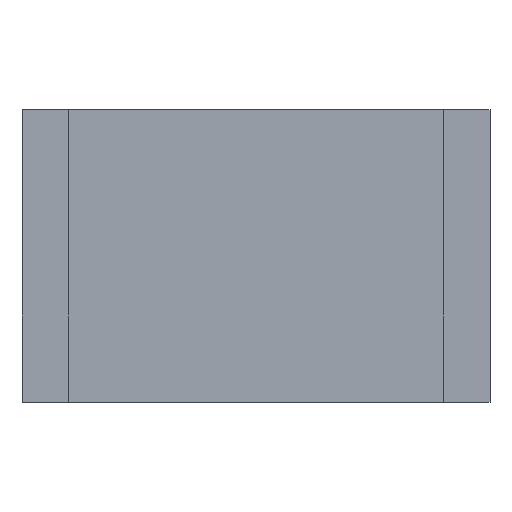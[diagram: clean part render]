
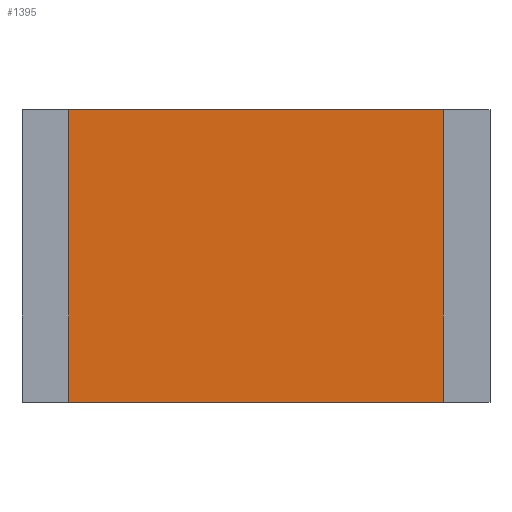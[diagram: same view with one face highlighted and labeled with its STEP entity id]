
A CAD part, top view. The second image highlights one B-rep face of the part: STEP entity #1395.
In plain terms, the highlighted planar face has unit normal (0, 0, 1).
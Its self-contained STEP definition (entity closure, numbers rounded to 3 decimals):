
#1081 = VERTEX_POINT('',#1082);
#1082 = CARTESIAN_POINT('',(0.,0.,0.05));
#1089 = PLANE('',#1090);
#1090 = AXIS2_PLACEMENT_3D('',#1091,#1092,#1093);
#1091 = CARTESIAN_POINT('',(0.,0.,0.));
#1092 = DIRECTION('',(1.,0.,0.));
#1093 = DIRECTION('',(0.,0.,1.));
#1101 = PLANE('',#1102);
#1102 = AXIS2_PLACEMENT_3D('',#1103,#1104,#1105);
#1103 = CARTESIAN_POINT('',(0.,0.,0.));
#1104 = DIRECTION('',(0.,1.,0.));
#1105 = DIRECTION('',(0.,0.,1.));
#1142 = VERTEX_POINT('',#1143);
#1143 = CARTESIAN_POINT('',(0.,1.25,0.05));
#1157 = PLANE('',#1158);
#1158 = AXIS2_PLACEMENT_3D('',#1159,#1160,#1161);
#1159 = CARTESIAN_POINT('',(0.,1.25,0.));
#1160 = DIRECTION('',(0.,1.,0.));
#1161 = DIRECTION('',(0.,0.,1.));
#1169 = EDGE_CURVE('',#1081,#1142,#1170,.T.);
#1170 = SURFACE_CURVE('',#1171,(#1175,#1182),.PCURVE_S1.);
#1171 = LINE('',#1172,#1173);
#1172 = CARTESIAN_POINT('',(0.,0.,0.05));
#1173 = VECTOR('',#1174,1.);
#1174 = DIRECTION('',(0.,1.,0.));
#1175 = PCURVE('',#1089,#1176);
#1176 = DEFINITIONAL_REPRESENTATION('',(#1177),#1181);
#1177 = LINE('',#1178,#1179);
#1178 = CARTESIAN_POINT('',(0.05,0.));
#1179 = VECTOR('',#1180,1.);
#1180 = DIRECTION('',(0.,-1.));
#1181 = ( GEOMETRIC_REPRESENTATION_CONTEXT(2) 
PARAMETRIC_REPRESENTATION_CONTEXT() REPRESENTATION_CONTEXT('2D SPACE',''
  ) );
#1182 = PCURVE('',#1183,#1188);
#1183 = PLANE('',#1184);
#1184 = AXIS2_PLACEMENT_3D('',#1185,#1186,#1187);
#1185 = CARTESIAN_POINT('',(0.,0.,0.05));
#1186 = DIRECTION('',(0.,0.,1.));
#1187 = DIRECTION('',(1.,0.,0.));
#1188 = DEFINITIONAL_REPRESENTATION('',(#1189),#1193);
#1189 = LINE('',#1190,#1191);
#1190 = CARTESIAN_POINT('',(0.,0.));
#1191 = VECTOR('',#1192,1.);
#1192 = DIRECTION('',(0.,1.));
#1193 = ( GEOMETRIC_REPRESENTATION_CONTEXT(2) 
PARAMETRIC_REPRESENTATION_CONTEXT() REPRESENTATION_CONTEXT('2D SPACE',''
  ) );
#1201 = VERTEX_POINT('',#1202);
#1202 = CARTESIAN_POINT('',(1.6,0.,0.05));
#1209 = PLANE('',#1210);
#1210 = AXIS2_PLACEMENT_3D('',#1211,#1212,#1213);
#1211 = CARTESIAN_POINT('',(1.6,0.,0.));
#1212 = DIRECTION('',(1.,0.,0.));
#1213 = DIRECTION('',(0.,0.,1.));
#1252 = VERTEX_POINT('',#1253);
#1253 = CARTESIAN_POINT('',(1.6,1.25,0.05));
#1274 = EDGE_CURVE('',#1201,#1252,#1275,.T.);
#1275 = SURFACE_CURVE('',#1276,(#1280,#1287),.PCURVE_S1.);
#1276 = LINE('',#1277,#1278);
#1277 = CARTESIAN_POINT('',(1.6,0.,0.05));
#1278 = VECTOR('',#1279,1.);
#1279 = DIRECTION('',(0.,1.,0.));
#1280 = PCURVE('',#1209,#1281);
#1281 = DEFINITIONAL_REPRESENTATION('',(#1282),#1286);
#1282 = LINE('',#1283,#1284);
#1283 = CARTESIAN_POINT('',(0.05,0.));
#1284 = VECTOR('',#1285,1.);
#1285 = DIRECTION('',(0.,-1.));
#1286 = ( GEOMETRIC_REPRESENTATION_CONTEXT(2) 
PARAMETRIC_REPRESENTATION_CONTEXT() REPRESENTATION_CONTEXT('2D SPACE',''
  ) );
#1287 = PCURVE('',#1183,#1288);
#1288 = DEFINITIONAL_REPRESENTATION('',(#1289),#1293);
#1289 = LINE('',#1290,#1291);
#1290 = CARTESIAN_POINT('',(1.6,0.));
#1291 = VECTOR('',#1292,1.);
#1292 = DIRECTION('',(0.,1.));
#1293 = ( GEOMETRIC_REPRESENTATION_CONTEXT(2) 
PARAMETRIC_REPRESENTATION_CONTEXT() REPRESENTATION_CONTEXT('2D SPACE',''
  ) );
#1320 = EDGE_CURVE('',#1081,#1201,#1321,.T.);
#1321 = SURFACE_CURVE('',#1322,(#1326,#1333),.PCURVE_S1.);
#1322 = LINE('',#1323,#1324);
#1323 = CARTESIAN_POINT('',(0.,0.,0.05));
#1324 = VECTOR('',#1325,1.);
#1325 = DIRECTION('',(1.,0.,0.));
#1326 = PCURVE('',#1101,#1327);
#1327 = DEFINITIONAL_REPRESENTATION('',(#1328),#1332);
#1328 = LINE('',#1329,#1330);
#1329 = CARTESIAN_POINT('',(0.05,0.));
#1330 = VECTOR('',#1331,1.);
#1331 = DIRECTION('',(0.,1.));
#1332 = ( GEOMETRIC_REPRESENTATION_CONTEXT(2) 
PARAMETRIC_REPRESENTATION_CONTEXT() REPRESENTATION_CONTEXT('2D SPACE',''
  ) );
#1333 = PCURVE('',#1183,#1334);
#1334 = DEFINITIONAL_REPRESENTATION('',(#1335),#1339);
#1335 = LINE('',#1336,#1337);
#1336 = CARTESIAN_POINT('',(0.,0.));
#1337 = VECTOR('',#1338,1.);
#1338 = DIRECTION('',(1.,0.));
#1339 = ( GEOMETRIC_REPRESENTATION_CONTEXT(2) 
PARAMETRIC_REPRESENTATION_CONTEXT() REPRESENTATION_CONTEXT('2D SPACE',''
  ) );
#1367 = EDGE_CURVE('',#1142,#1252,#1368,.T.);
#1368 = SURFACE_CURVE('',#1369,(#1373,#1380),.PCURVE_S1.);
#1369 = LINE('',#1370,#1371);
#1370 = CARTESIAN_POINT('',(0.,1.25,0.05));
#1371 = VECTOR('',#1372,1.);
#1372 = DIRECTION('',(1.,0.,0.));
#1373 = PCURVE('',#1157,#1374);
#1374 = DEFINITIONAL_REPRESENTATION('',(#1375),#1379);
#1375 = LINE('',#1376,#1377);
#1376 = CARTESIAN_POINT('',(0.05,0.));
#1377 = VECTOR('',#1378,1.);
#1378 = DIRECTION('',(0.,1.));
#1379 = ( GEOMETRIC_REPRESENTATION_CONTEXT(2) 
PARAMETRIC_REPRESENTATION_CONTEXT() REPRESENTATION_CONTEXT('2D SPACE',''
  ) );
#1380 = PCURVE('',#1183,#1381);
#1381 = DEFINITIONAL_REPRESENTATION('',(#1382),#1386);
#1382 = LINE('',#1383,#1384);
#1383 = CARTESIAN_POINT('',(0.,1.25));
#1384 = VECTOR('',#1385,1.);
#1385 = DIRECTION('',(1.,0.));
#1386 = ( GEOMETRIC_REPRESENTATION_CONTEXT(2) 
PARAMETRIC_REPRESENTATION_CONTEXT() REPRESENTATION_CONTEXT('2D SPACE',''
  ) );
#1395 = ADVANCED_FACE('',(#1396),#1183,.T.);
#1396 = FACE_BOUND('',#1397,.T.);
#1397 = EDGE_LOOP('',(#1398,#1399,#1400,#1401));
#1398 = ORIENTED_EDGE('',*,*,#1169,.F.);
#1399 = ORIENTED_EDGE('',*,*,#1320,.T.);
#1400 = ORIENTED_EDGE('',*,*,#1274,.T.);
#1401 = ORIENTED_EDGE('',*,*,#1367,.F.);
